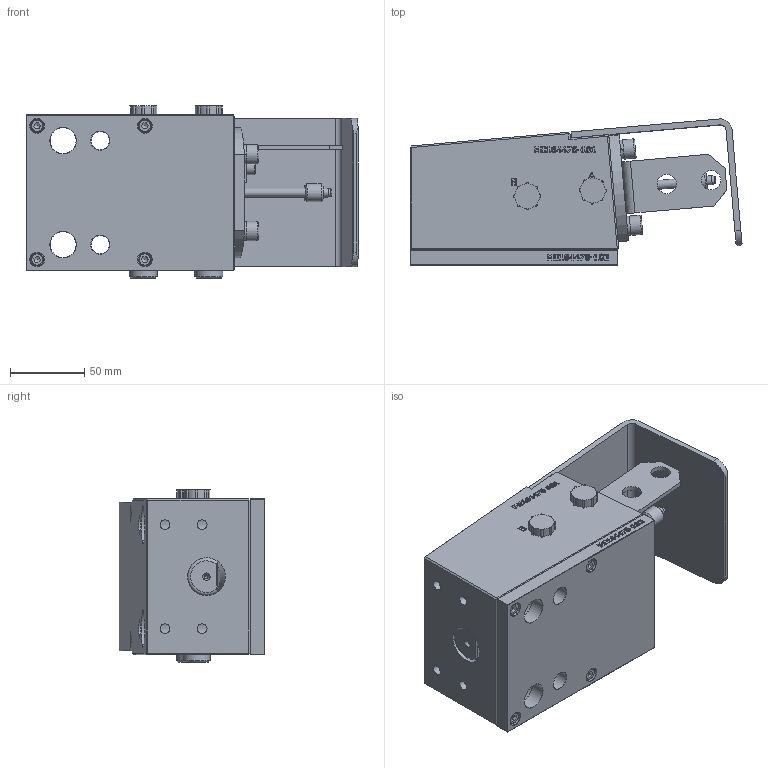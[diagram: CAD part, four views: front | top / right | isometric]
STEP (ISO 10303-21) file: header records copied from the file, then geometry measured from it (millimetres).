
FILE_DESCRIPTION(/* description */ ('BASE MOD250-200'),/* implementation_level */ '2;1');
FILE_NAME(/* name */ 'Z:\Standard products\1. QMC Clamping Systems\3. MOD - Mold clamp\MOD250\MOD250-300-RH-250-P500(M16) (20-12-16).stp',/* time_stamp */ '2016-12-20T12:16:41+01:00',/* author */ ('breep'),/* organization */ (''),/* preprocessor_version */ 'ST-DEVELOPER v16.1',/* originating_system */ 'Autodesk Inventor 2016',/* authorisation */ '');
FILE_SCHEMA (('AUTOMOTIVE_DESIGN { 1 0 10303 214 3 1 1 }'));
Length unit declared in the file: millimetre
Products named in the file (23): ME164476-101; B1009-803; MOD250-77; CV536-298; CBA515-0281B; CBA615-0281A; CY187-028; CV548-039; CV795-111; MOD250-88; CV792-044; CV791-040; CV532-061; CV794-061; CCA821-0281A; CCE1008-1085C; MOD250-99; CS235-006; CV853-271; MOD250-999R; ME164476-102; CCA521-0281A; MOD250-300-RH-250-P500(M16)
Assembly tree (35 placements, depth 4):
  MOD250-300-RH-250-P500(M16)
    ME164476-101
    MOD250-999R
      MOD250-77
        B1009-803
      MOD250-88
        CV536-298
        CBA515-0281B  x2
        CBA615-0281A  x2
        CY187-028
        CV548-039
        CV795-111
      MOD250-99
        CV792-044
        CV791-040
        CV532-061
        CV794-061
        CCA821-0281A  x4
        CCE1008-1085C  x4
      CS235-006  x2
      CV853-271  x2
    ME164476-102
    CCA521-0281A  x4
Bounding box: 223.59 x 98.22 x 116.1 mm (x, y, z)
Volume: 1219872.8 mm3; surface area: 236318.4 mm2
Topology: 31 solids, 31 shells, 1051 faces, 2548 edges, 1637 vertices
Faces by surface type: plane 576, cylinder 186, bspline 143, cone 107, torus 37, sphere 2
Full cylindrical faces by diameter (mm): 2.459 x1, 2.5 x1, 3 x2, 4 x7, 4.134 x6, 4.3 x1, 4.917 x5, 5 x6, 5.28 x1, 5.5 x5, 6 x9, 6.02 x1, 6.1 x1, 6.2 x2, 6.647 x8, 7 x2, 8 x4, 8.5 x4, 8.75 x1, 8.84 x1, 9 x6, 9.5 x4, 10 x4, 10.03 x1, 10.8 x2, 11.2 x2, 11.445 x4, 11.6 x2, 12 x1, 12.1 x2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
Entity records: 25201 total; most frequent: CARTESIAN_POINT 6349, ORIENTED_EDGE 3662, DIRECTION 3383, EDGE_CURVE 1831, VERTEX_POINT 1297, EDGE_LOOP 1216, AXIS2_PLACEMENT_3D 1128, LINE 1127
